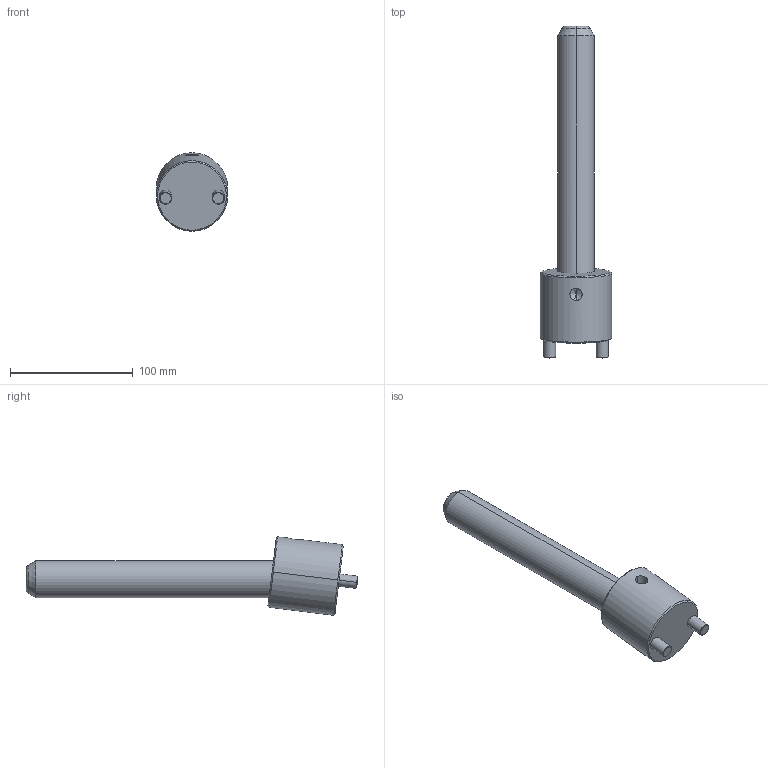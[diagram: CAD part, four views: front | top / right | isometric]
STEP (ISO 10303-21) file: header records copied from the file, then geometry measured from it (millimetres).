
FILE_DESCRIPTION(('CATIA V5 STEP Exchange'),'2;1');
FILE_NAME('C:\Users\Raffaele\Desktop\3D BOLEX\3D FILES CF BOLEX\19-INCLINED ASSEMBLY REF_CI\CI0730200.stp','2019-06-24T07:35:26+00:00',('none'),('none'),'CATIA Version 5 Release 20 GA (IN-10)','CATIA V5 STEP AP203','none');
FILE_SCHEMA(('CONFIG_CONTROL_DESIGN'));
Length unit declared in the file: millimetre
Products named in the file (1): CI0730200
Assembly tree (2 placements, depth 2):
  CI0730200
    #58
    #584
Bounding box: 58 x 270.76 x 64.03 mm (x, y, z)
Volume: 284921.5 mm3; surface area: 45007.1 mm2
Topology: 2 solids, 2 shells, 39 faces, 82 edges, 47 vertices
Faces by surface type: cone 14, cylinder 14, plane 7, torus 4
Entity records: 1539 total; most frequent: CARTESIAN_POINT 678, ORIENTED_EDGE 160, DIRECTION 146, EDGE_CURVE 80, AXIS2_PLACEMENT_3D 73, VERTEX_POINT 47, EDGE_LOOP 43, ADVANCED_FACE 39
